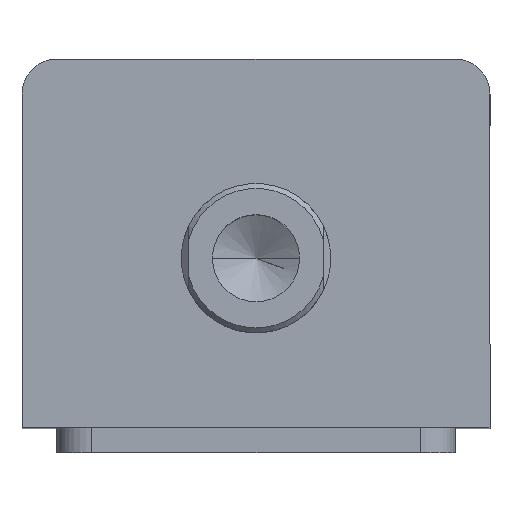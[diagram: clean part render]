
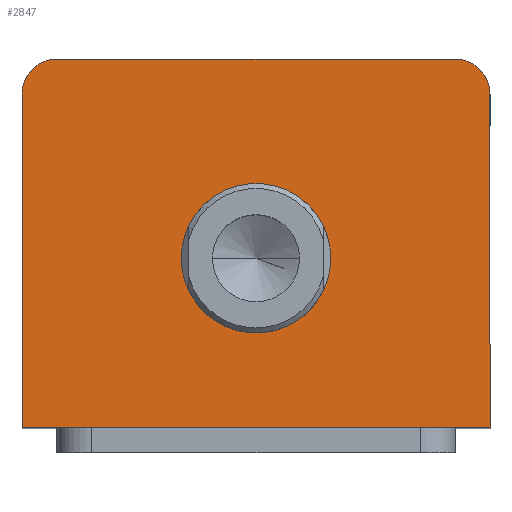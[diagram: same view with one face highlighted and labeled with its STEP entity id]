
A CAD part, top view. The second image highlights one B-rep face of the part: STEP entity #2847.
In plain terms, the highlighted planar face has unit normal (0, 0, 1).
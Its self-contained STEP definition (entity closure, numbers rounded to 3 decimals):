
#38 = CIRCLE ( 'NONE', #1588, 7. ) ;
#56 = LINE ( 'NONE', #1336, #58 ) ;
#58 = VECTOR ( 'NONE', #1182, 1000. ) ;
#60 = CIRCLE ( 'NONE', #1186, 7. ) ;
#136 = FACE_BOUND ( 'NONE', #308, .T. ) ;
#143 = FACE_OUTER_BOUND ( 'NONE', #2150, .T. ) ;
#308 = EDGE_LOOP ( 'NONE', ( #1716, #1751 ) ) ;
#352 = DIRECTION ( 'NONE',  ( 0., 1., 0. ) ) ;
#354 = CARTESIAN_POINT ( 'NONE',  ( 47., 37., 135. ) ) ;
#443 = CARTESIAN_POINT ( 'NONE',  ( -47., -37., 135. ) ) ;
#448 = CARTESIAN_POINT ( 'NONE',  ( 47., -37., 135. ) ) ;
#479 = CARTESIAN_POINT ( 'NONE',  ( 47., 30., 135. ) ) ;
#547 = DIRECTION ( 'NONE',  ( 1., 0., 0. ) ) ;
#548 = DIRECTION ( 'NONE',  ( 0., 0., 1. ) ) ;
#549 = CARTESIAN_POINT ( 'NONE',  ( 0., -3., 135. ) ) ;
#574 = DIRECTION ( 'NONE',  ( 1., 0., 0. ) ) ;
#576 = CARTESIAN_POINT ( 'NONE',  ( -47., -37., 135. ) ) ;
#748 = DIRECTION ( 'NONE',  ( -1., 0., 0. ) ) ;
#754 = CARTESIAN_POINT ( 'NONE',  ( -47., 37., 135. ) ) ;
#803 = DIRECTION ( 'NONE',  ( 1., 0., 0. ) ) ;
#804 = DIRECTION ( 'NONE',  ( 0., 0., 1. ) ) ;
#805 = CARTESIAN_POINT ( 'NONE',  ( 0., -3., 135. ) ) ;
#898 = DIRECTION ( 'NONE',  ( 1., 0., 0. ) ) ;
#899 = DIRECTION ( 'NONE',  ( 0., 0., 1. ) ) ;
#905 = PLANE ( 'NONE',  #1316 ) ;
#910 = CARTESIAN_POINT ( 'NONE',  ( 0., 0., 135. ) ) ;
#949 = CARTESIAN_POINT ( 'NONE',  ( 40., 37., 135. ) ) ;
#1005 = DIRECTION ( 'NONE',  ( 0., 0., 1. ) ) ;
#1006 = DIRECTION ( 'NONE',  ( 1., 0., 0. ) ) ;
#1015 = CARTESIAN_POINT ( 'NONE',  ( -40., 30., 135. ) ) ;
#1021 = CARTESIAN_POINT ( 'NONE',  ( 40., 30., 135. ) ) ;
#1182 = DIRECTION ( 'NONE',  ( 0., -1., 0. ) ) ;
#1186 = AXIS2_PLACEMENT_3D ( 'NONE', #1021, #1005, #1006 ) ;
#1242 = DIRECTION ( 'NONE',  ( 1., 0., 0. ) ) ;
#1256 = CARTESIAN_POINT ( 'NONE',  ( -40., 37., 135. ) ) ;
#1286 = CARTESIAN_POINT ( 'NONE',  ( -47., 30., 135. ) ) ;
#1316 = AXIS2_PLACEMENT_3D ( 'NONE', #910, #899, #898 ) ;
#1318 = CARTESIAN_POINT ( 'NONE',  ( -15., -3., 135. ) ) ;
#1331 = DIRECTION ( 'NONE',  ( 0., 0., 1. ) ) ;
#1336 = CARTESIAN_POINT ( 'NONE',  ( -47., 37., 135. ) ) ;
#1338 = CARTESIAN_POINT ( 'NONE',  ( 15., -3., 135. ) ) ;
#1379 = AXIS2_PLACEMENT_3D ( 'NONE', #549, #548, #547 ) ;
#1408 = AXIS2_PLACEMENT_3D ( 'NONE', #805, #804, #803 ) ;
#1445 = EDGE_CURVE ( 'NONE', #2230, #2213, #2548, .T. ) ;
#1459 = EDGE_CURVE ( 'NONE', #2299, #2316, #2575, .T. ) ;
#1479 = EDGE_CURVE ( 'NONE', #2235, #2230, #2599, .T. ) ;
#1498 = EDGE_CURVE ( 'NONE', #2251, #2252, #2624, .T. ) ;
#1564 = EDGE_CURVE ( 'NONE', #2252, #2251, #2726, .T. ) ;
#1588 = AXIS2_PLACEMENT_3D ( 'NONE', #1015, #1331, #1242 ) ;
#1635 = ORIENTED_EDGE ( 'NONE', *, *, #1479, .T. ) ;
#1716 = ORIENTED_EDGE ( 'NONE', *, *, #1498, .F. ) ;
#1750 = ORIENTED_EDGE ( 'NONE', *, *, #2499, .T. ) ;
#1751 = ORIENTED_EDGE ( 'NONE', *, *, #1564, .F. ) ;
#1752 = ORIENTED_EDGE ( 'NONE', *, *, #2485, .T. ) ;
#1754 = ORIENTED_EDGE ( 'NONE', *, *, #1445, .T. ) ;
#2150 = EDGE_LOOP ( 'NONE', ( #2428, #1752, #1750, #1635, #1754, #2414 ) ) ;
#2213 = VERTEX_POINT ( 'NONE', #479 ) ;
#2230 = VERTEX_POINT ( 'NONE', #448 ) ;
#2235 = VERTEX_POINT ( 'NONE', #443 ) ;
#2251 = VERTEX_POINT ( 'NONE', #1338 ) ;
#2252 = VERTEX_POINT ( 'NONE', #1318 ) ;
#2299 = VERTEX_POINT ( 'NONE', #949 ) ;
#2316 = VERTEX_POINT ( 'NONE', #1256 ) ;
#2325 = VERTEX_POINT ( 'NONE', #1286 ) ;
#2414 = ORIENTED_EDGE ( 'NONE', *, *, #2502, .T. ) ;
#2428 = ORIENTED_EDGE ( 'NONE', *, *, #1459, .T. ) ;
#2485 = EDGE_CURVE ( 'NONE', #2316, #2325, #38, .T. ) ;
#2499 = EDGE_CURVE ( 'NONE', #2325, #2235, #56, .T. ) ;
#2502 = EDGE_CURVE ( 'NONE', #2213, #2299, #60, .T. ) ;
#2548 = LINE ( 'NONE', #354, #2551 ) ;
#2551 = VECTOR ( 'NONE', #352, 1000. ) ;
#2575 = LINE ( 'NONE', #754, #2578 ) ;
#2578 = VECTOR ( 'NONE', #748, 1000. ) ;
#2599 = LINE ( 'NONE', #576, #2602 ) ;
#2602 = VECTOR ( 'NONE', #574, 1000. ) ;
#2624 = CIRCLE ( 'NONE', #1408, 15. ) ;
#2726 = CIRCLE ( 'NONE', #1379, 15. ) ;
#2847 = ADVANCED_FACE ( 'NONE', ( #136, #143 ), #905, .T. ) ;
